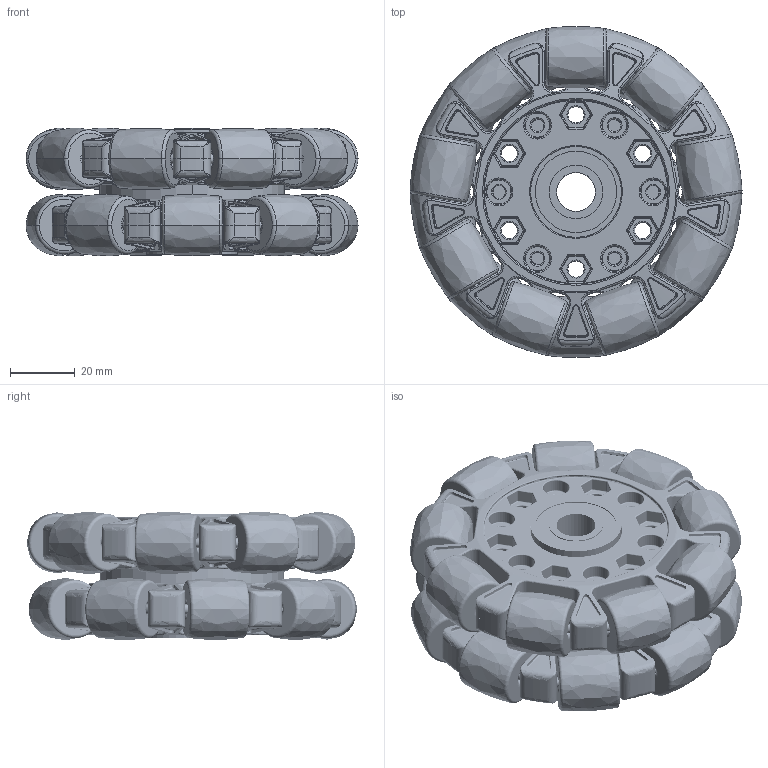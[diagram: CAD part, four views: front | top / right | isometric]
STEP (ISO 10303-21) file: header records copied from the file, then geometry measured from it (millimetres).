
FILE_DESCRIPTION((''),'2;1');
FILE_NAME('MO114.STEP','2013-03-05T',('Administrator'),(''),'PRO/ENGINEER BY PARAMETRIC TECHNOLOGY CORPORATION, 2009360','PRO/ENGINEER BY PARAMETRIC TECHNOLOGY CORPORATION, 2009360','');
FILE_SCHEMA(('CONFIG_CONTROL_DESIGN'));
Length unit declared in the file: millimetre
Products named in the file (7): F2; F5; F6; A1_ASM; F12; 4; MO114
Assembly tree (27 placements, depth 3):
  MO114
    A1_ASM  x2
      F2
      F5
      F6
    F12
    4  x4
Bounding box: 102.26 x 101.88 x 39.28 mm (x, y, z)
Volume: 198864.3 mm3; surface area: 103383.3 mm2
Topology: 45 solids, 63 shells, 3608 faces, 8236 edges, 4836 vertices
Faces by surface type: cylinder 1128, bspline 932, torus 624, plane 616, cone 164, sphere 144
Entity records: 34435 total; most frequent: CARTESIAN_POINT 13831, DIRECTION 4335, ORIENTED_EDGE 4308, EDGE_CURVE 2156, AXIS2_PLACEMENT_3D 1844, VERTEX_POINT 1282, CIRCLE 1095, EDGE_LOOP 997
